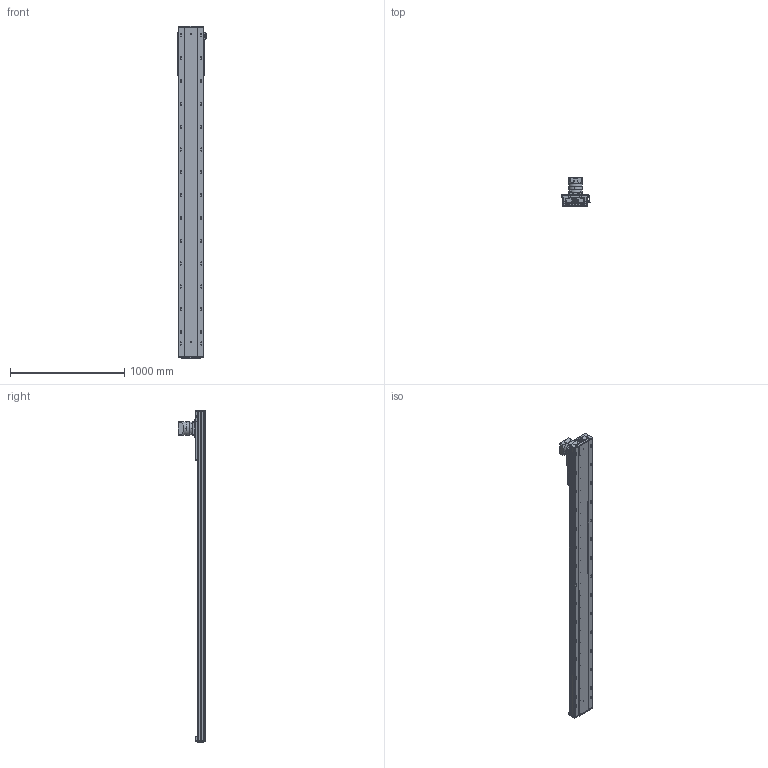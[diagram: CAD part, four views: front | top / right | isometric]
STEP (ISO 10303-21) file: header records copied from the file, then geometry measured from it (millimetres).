
FILE_DESCRIPTION (( 'STEP AP203' ), '1' );
FILE_NAME ('RY220-C-300-UK.SLDASM_2400.step', '2022-08-01T06:00:08', ( '' ), ( '' ), 'SwSTEP 2.0', 'SolidWorks 2016', '' );
FILE_SCHEMA (( 'CONFIG_CONTROL_DESIGN' ));
Length unit declared in the file: millimetre
Products named in the file (10): RY140直线电机感应器674光电安装座; 覜茼ん674; RY220-C-300-UK.SLDASM_2400; RY220喘沭綴裔啣; RY220喘沭俋离覜茼え; 滅袉蝶輸ㄗG412隅秶ㄘ; RY220菁釱MK-300_2400; PF115L1-S2-22-58-110-145-M8; RY220-齿条模组电机安装板; RY220喘沭賑輸
Assembly tree (12 placements, depth 2):
  RY220-C-300-UK.SLDASM_2400
    RY220菁釱MK-300_2400
    RY220喘沭賑輸
    RY220-齿条模组电机安装板
    PF115L1-S2-22-58-110-145-M8
    RY220喘沭綴裔啣  x2
    滅袉蝶輸ㄗG412隅秶ㄘ  x2
    RY140直线电机感应器674光电安装座
    覜茼ん674  x2
    RY220喘沭俋离覜茼え
Bounding box: 247 x 244.5 x 2909 mm (x, y, z)
Volume: 19927894.8 mm3; surface area: 4078382.4 mm2
Topology: 18 solids, 26 shells, 2296 faces, 6185 edges, 3873 vertices
Faces by surface type: cylinder 1109, plane 751, cone 274, bspline 162
Entity records: 73029 total; most frequent: CARTESIAN_POINT 19873, DIRECTION 10975, ORIENTED_EDGE 10722, EDGE_CURVE 5361, AXIS2_PLACEMENT_3D 4203, VERTEX_POINT 3499, EDGE_LOOP 2680, LINE 2569
